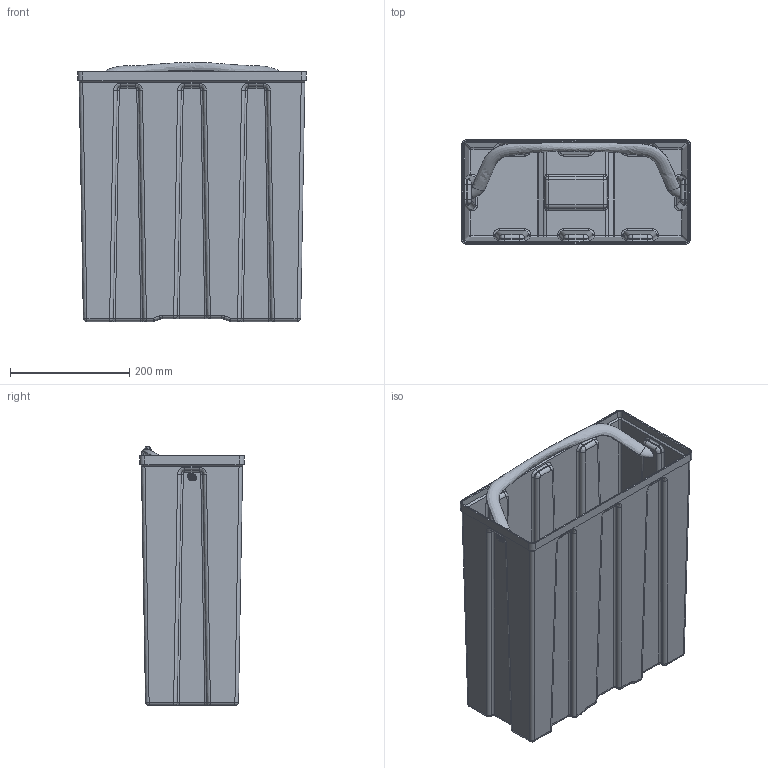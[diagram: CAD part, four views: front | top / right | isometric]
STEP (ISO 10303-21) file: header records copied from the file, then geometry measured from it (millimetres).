
FILE_DESCRIPTION(/* description */ ('Unknown'),/* implementation_level */ '2;1');
FILE_NAME(/* name */ 'cesta',/* time_stamp */ '2018-04-24T11:36:22+02:00',/* author */ ('Unknown'),/* organization */ ('Unknown'),/* preprocessor_version */ 'ST-DEVELOPER v16.7',/* originating_system */ 'DEX',/* authorisation */ $);
FILE_SCHEMA (('CONFIG_CONTROL_DESIGN'));
Products named in the file (3): 42-72; 42-70; 42-71
Assembly tree (2 placements, depth 2):
  42-72
    42-70
    42-71
Bounding box: 384.66 x 175.66 x 435.5 mm (x, y, z)
Volume: 1534650.1 mm3; surface area: 1115040.7 mm2
Topology: 2 solids, 2 shells, 882 faces, 2101 edges, 1152 vertices
Faces by surface type: cylinder 360, bspline 239, plane 189, sphere 72, torus 22
Full cylindrical faces by diameter (mm): 8 x2
Entity records: 53606 total; most frequent: CARTESIAN_POINT 34712, ORIENTED_EDGE 4008, DIRECTION 3916, EDGE_CURVE 2004, AXIS2_PLACEMENT_3D 1556, VERTEX_POINT 1149, EDGE_LOOP 909, FACE_BOUND 909
